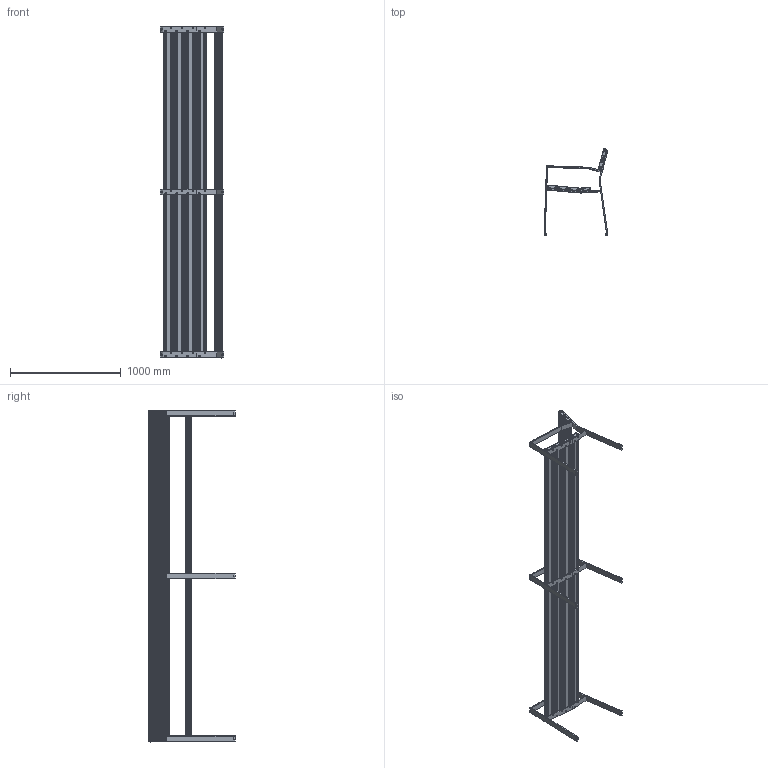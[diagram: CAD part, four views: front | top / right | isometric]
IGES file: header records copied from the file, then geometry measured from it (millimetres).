
Start section: SolidWorks IGES file using analytic representation for surfaces
Global section: file name: C:\SANTACOLE_PDM\Proyectos Catálogo\PROD-P13-073 -- BANCO HARPO\6_Técnico comercial\3D WEB\Banco Harpo 300cm  Aluminio - Bench Harpo 300cm  Aluminium.IGS; native system: SolidWorks 2013; preprocessor: SolidWorks 2013; author: jordi.munoz; date: 150622.122020; units: millimetre
Bounding box: 578.04 x 781.3 x 3004.33 mm (x, y, z)
Surface area: 12430363.5 mm2 (no closed solid volume)
Topology: 0 solids, 0 shells, 3759 faces, 33092 edges, 33044 vertices
Faces by surface type: revolution 2157, bspline 1602
